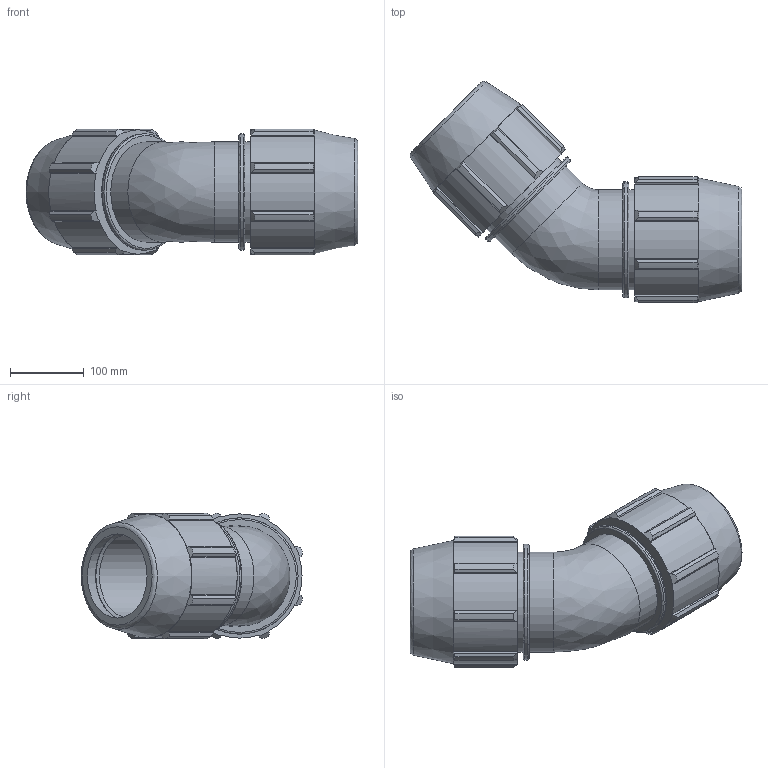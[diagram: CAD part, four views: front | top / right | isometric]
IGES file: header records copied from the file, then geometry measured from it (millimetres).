
Global section: file name: 0706M0040.ipt; native system: Autodesk Inventor 2019; preprocessor: unknown; author: KIM; date: 20210826.124631; units: inch
Bounding box: 449.88 x 300.14 x 170.4 mm (x, y, z)
Volume: 4012808.7 mm3; surface area: 453917 mm2
Topology: 1 solids, 1 shells, 146 faces, 417 edges, 281 vertices
Faces by surface type: plane 74, cylinder 38, cone 20, revolution 14
Full cylindrical faces by diameter (mm): 135.827 x4, 157.559 x2
